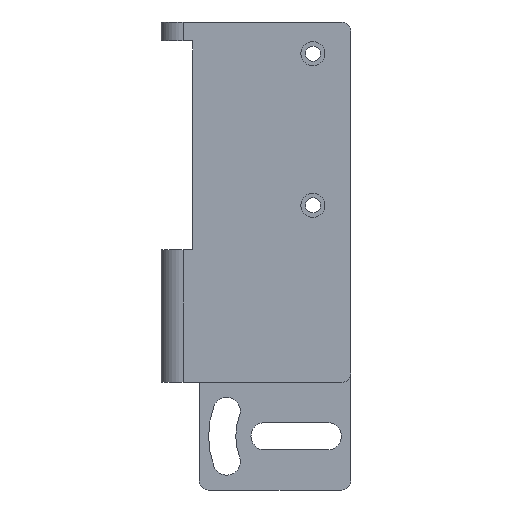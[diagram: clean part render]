
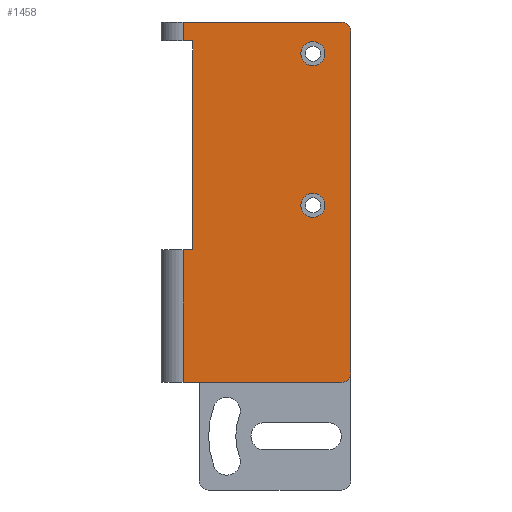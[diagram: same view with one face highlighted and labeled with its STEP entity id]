
A CAD part, front view. The second image highlights one B-rep face of the part: STEP entity #1458.
In plain terms, the highlighted planar face has unit normal (0, -1, 0).
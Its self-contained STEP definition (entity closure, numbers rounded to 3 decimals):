
#141=CARTESIAN_POINT('',(25.3,1.65,17.));
#142=VERTEX_POINT('',#141);
#151=CARTESIAN_POINT('',(21.5,1.65,17.));
#152=VERTEX_POINT('',#151);
#153=CARTESIAN_POINT('',(23.4,1.65,17.));
#154=DIRECTION('',(0.0,1.0,0.0));
#155=DIRECTION('',(1.0,0.0,0.0));
#156=AXIS2_PLACEMENT_3D('',#153,#154,#155);
#157=CIRCLE('',#156,1.9);
#158=EDGE_CURVE('',#152,#142,#157,.T.);
#225=CARTESIAN_POINT('',(25.3,1.65,-7.));
#226=VERTEX_POINT('',#225);
#235=CARTESIAN_POINT('',(21.5,1.65,-7.));
#236=VERTEX_POINT('',#235);
#237=CARTESIAN_POINT('',(23.4,1.65,-7.));
#238=DIRECTION('',(0.0,1.0,0.0));
#239=DIRECTION('',(1.0,0.0,0.0));
#240=AXIS2_PLACEMENT_3D('',#237,#238,#239);
#241=CIRCLE('',#240,1.9);
#242=EDGE_CURVE('',#236,#226,#241,.T.);
#309=CARTESIAN_POINT('',(29.4,1.65,-33.5));
#310=VERTEX_POINT('',#309);
#311=CARTESIAN_POINT('',(27.9,1.65,-35.0));
#312=VERTEX_POINT('',#311);
#313=CARTESIAN_POINT('',(27.9,1.65,-33.5));
#314=DIRECTION('',(0.0,1.,0.0));
#315=DIRECTION('',(0.707,0.0,-0.707));
#316=AXIS2_PLACEMENT_3D('',#313,#314,#315);
#317=CIRCLE('',#316,1.5);
#318=EDGE_CURVE('',#310,#312,#317,.T.);
#360=CARTESIAN_POINT('',(29.4,1.65,20.5));
#361=VERTEX_POINT('',#360);
#368=CARTESIAN_POINT('',(29.4,1.65,-33.5));
#369=DIRECTION('',(0.0,0.0,1.0));
#370=VECTOR('',#369,54.0);
#371=LINE('',#368,#370);
#372=EDGE_CURVE('',#310,#361,#371,.T.);
#823=CARTESIAN_POINT('',(2.9,1.65,22.0));
#824=VERTEX_POINT('',#823);
#832=CARTESIAN_POINT('',(27.9,1.65,22.0));
#833=VERTEX_POINT('',#832);
#834=CARTESIAN_POINT('',(27.9,1.65,22.0));
#835=DIRECTION('',(-1.0,0.0,0.0));
#836=VECTOR('',#835,25.0);
#837=LINE('',#834,#836);
#838=EDGE_CURVE('',#833,#824,#837,.T.);
#880=CARTESIAN_POINT('',(27.9,1.65,20.5));
#881=DIRECTION('',(0.0,1.,0.0));
#882=DIRECTION('',(0.707,0.0,0.707));
#883=AXIS2_PLACEMENT_3D('',#880,#881,#882);
#884=CIRCLE('',#883,1.5);
#885=EDGE_CURVE('',#833,#361,#884,.T.);
#1121=CARTESIAN_POINT('',(2.9,1.65,-35.0));
#1122=VERTEX_POINT('',#1121);
#1123=CARTESIAN_POINT('',(27.9,1.65,-35.0));
#1124=DIRECTION('',(-1.0,0.0,0.0));
#1125=VECTOR('',#1124,25.0);
#1126=LINE('',#1123,#1125);
#1127=EDGE_CURVE('',#312,#1122,#1126,.T.);
#1321=CARTESIAN_POINT('',(2.9,1.65,-14.0));
#1322=VERTEX_POINT('',#1321);
#1330=CARTESIAN_POINT('',(4.4,1.65,-14.0));
#1331=VERTEX_POINT('',#1330);
#1332=CARTESIAN_POINT('',(4.4,1.65,-14.0));
#1333=DIRECTION('',(-1.0,0.0,0.0));
#1334=VECTOR('',#1333,1.5);
#1335=LINE('',#1332,#1334);
#1336=EDGE_CURVE('',#1331,#1322,#1335,.T.);
#1386=CARTESIAN_POINT('',(2.9,1.65,-35.0));
#1387=DIRECTION('',(0.0,0.0,1.0));
#1388=VECTOR('',#1387,21.0);
#1389=LINE('',#1386,#1388);
#1390=EDGE_CURVE('',#1122,#1322,#1389,.T.);
#1402=CARTESIAN_POINT('',(29.4,1.65,-35.0));
#1403=DIRECTION('',(0.0,-1.0,0.0));
#1404=DIRECTION('',(0.0,0.0,-1.0));
#1405=AXIS2_PLACEMENT_3D('',#1402,#1403,#1404);
#1406=PLANE('',#1405);
#1407=ORIENTED_EDGE('',*,*,#318,.F.);
#1408=ORIENTED_EDGE('',*,*,#372,.T.);
#1409=ORIENTED_EDGE('',*,*,#885,.F.);
#1410=ORIENTED_EDGE('',*,*,#838,.T.);
#1411=CARTESIAN_POINT('',(2.9,1.65,19.0));
#1412=VERTEX_POINT('',#1411);
#1413=CARTESIAN_POINT('',(2.9,1.65,19.0));
#1414=DIRECTION('',(0.0,0.0,1.0));
#1415=VECTOR('',#1414,3.0);
#1416=LINE('',#1413,#1415);
#1417=EDGE_CURVE('',#1412,#824,#1416,.T.);
#1418=ORIENTED_EDGE('',*,*,#1417,.F.);
#1419=CARTESIAN_POINT('',(4.4,1.65,19.0));
#1420=VERTEX_POINT('',#1419);
#1421=CARTESIAN_POINT('',(2.9,1.65,19.0));
#1422=DIRECTION('',(1.0,0.0,0.0));
#1423=VECTOR('',#1422,1.5);
#1424=LINE('',#1421,#1423);
#1425=EDGE_CURVE('',#1412,#1420,#1424,.T.);
#1426=ORIENTED_EDGE('',*,*,#1425,.T.);
#1427=CARTESIAN_POINT('',(4.4,1.65,19.0));
#1428=DIRECTION('',(0.0,0.0,-1.0));
#1429=VECTOR('',#1428,33.0);
#1430=LINE('',#1427,#1429);
#1431=EDGE_CURVE('',#1420,#1331,#1430,.T.);
#1432=ORIENTED_EDGE('',*,*,#1431,.T.);
#1433=ORIENTED_EDGE('',*,*,#1336,.T.);
#1434=ORIENTED_EDGE('',*,*,#1390,.F.);
#1435=ORIENTED_EDGE('',*,*,#1127,.F.);
#1436=EDGE_LOOP('',(#1407,#1408,#1409,#1410,#1418,#1426,#1432,#1433,#1434,#1435));
#1437=FACE_OUTER_BOUND('',#1436,.T.);
#1438=CARTESIAN_POINT('',(23.4,1.65,-7.));
#1439=DIRECTION('',(0.0,1.0,0.0));
#1440=DIRECTION('',(1.0,0.0,0.0));
#1441=AXIS2_PLACEMENT_3D('',#1438,#1439,#1440);
#1442=CIRCLE('',#1441,1.9);
#1443=EDGE_CURVE('',#226,#236,#1442,.T.);
#1444=ORIENTED_EDGE('',*,*,#1443,.T.);
#1445=ORIENTED_EDGE('',*,*,#242,.T.);
#1446=EDGE_LOOP('',(#1444,#1445));
#1447=FACE_BOUND('',#1446,.T.);
#1448=CARTESIAN_POINT('',(23.4,1.65,17.));
#1449=DIRECTION('',(0.0,1.0,0.0));
#1450=DIRECTION('',(1.0,0.0,0.0));
#1451=AXIS2_PLACEMENT_3D('',#1448,#1449,#1450);
#1452=CIRCLE('',#1451,1.9);
#1453=EDGE_CURVE('',#142,#152,#1452,.T.);
#1454=ORIENTED_EDGE('',*,*,#1453,.T.);
#1455=ORIENTED_EDGE('',*,*,#158,.T.);
#1456=EDGE_LOOP('',(#1454,#1455));
#1457=FACE_BOUND('',#1456,.T.);
#1458=ADVANCED_FACE('',(#1437,#1447,#1457),#1406,.T.);
